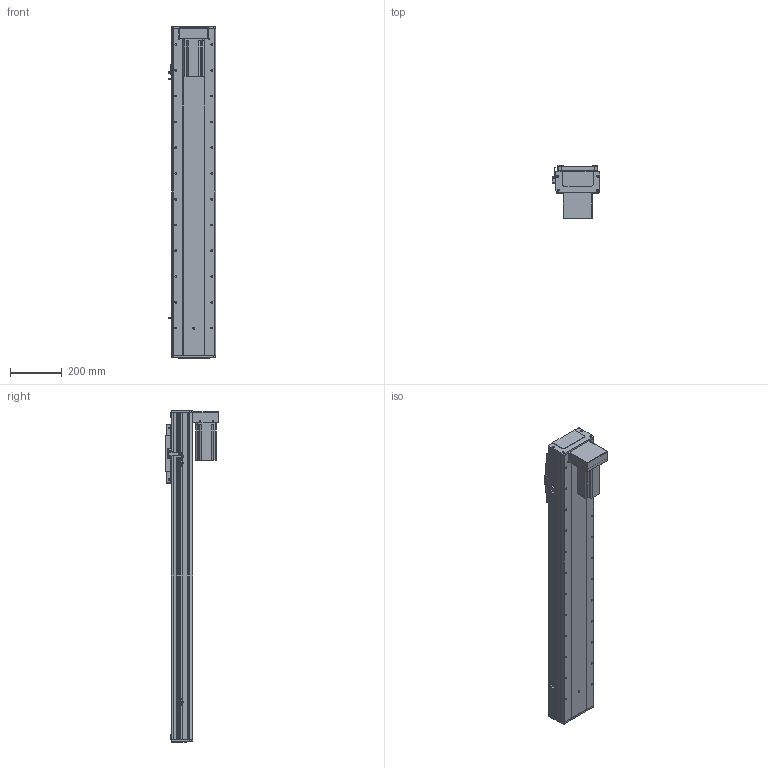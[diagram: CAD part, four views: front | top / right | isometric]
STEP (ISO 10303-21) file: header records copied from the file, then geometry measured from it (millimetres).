
FILE_DESCRIPTION (( 'STEP AP203' ), '1' );
FILE_NAME ('RY170F-L2010-300-BK.SLDASM_950.step', '2021-03-02T08:56:11', ( '盈信电脑' ), ( '东莞市道滘镇水果街19号' ), 'SwSTEP 2.0', 'SolidWorks 2012', '' );
FILE_SCHEMA (( 'CONFIG_CONTROL_DESIGN' ));
Length unit declared in the file: millimetre
Products named in the file (20): RY170F-L2010-300-BK.SLDASM_950; RY170F狟殏萇儂欶; 怢湛750W萇儂ㄗ80遺ㄘ; RY170F-狟殏萇儂假蚾啣(750W); RY170狟殏詩湍假蚾輸; 滅袉蝶18-24; RY170F-詩湍揤踡輸; RY170F-揤踡謫假蚾粣; 侐源滅袉蝶; RY170F-綴裔啣; RY170F俋离覜茼え; 覜茼ん672; RY100F-詩湍揤踡謫; RY170F-佪裝臏賑輸20蹟譫; 滅袉蝶18-10; RY170F-丝杆铝滑块连接板; RY170F-300眻蟀祥凄詩湍-MK_950; RY170F-300眻蟀倰第奻裔啣-BK_950; RY170F-300眻蟀倰第菁釱-BK_950; RY170F-滅鳥奻裔
Assembly tree (25 placements, depth 2):
  RY170F-L2010-300-BK.SLDASM_950
    RY170F-300眻蟀祥凄詩湍-MK_950
    RY170F-300眻蟀倰第奻裔啣-BK_950  x2
    RY170F-滅鳥奻裔
    RY170F-300眻蟀倰第菁釱-BK_950
    RY170F-佪裝臏賑輸20蹟譫
    RY170F-丝杆铝滑块连接板
    滅袉蝶18-10
    RY100F-詩湍揤踡謫
    RY170F-綴裔啣  x2
    覜茼ん672  x3
    RY170F俋离覜茼え
    RY170F-揤踡謫假蚾粣
    RY170F-詩湍揤踡輸  x2
    滅袉蝶18-24
    侐源滅袉蝶  x2
    RY170F-狟殏萇儂假蚾啣(750W)
    怢湛750W萇儂ㄗ80遺ㄘ
    RY170F狟殏萇儂欶
    RY170狟殏詩湍假蚾輸
Bounding box: 183.7 x 208 x 1288 mm (x, y, z)
Volume: 7278226.3 mm3; surface area: 2408016.7 mm2
Topology: 25 solids, 25 shells, 1890 faces, 5221 edges, 3304 vertices
Faces by surface type: cylinder 904, plane 762, cone 220, bspline 4
Entity records: 52824 total; most frequent: CARTESIAN_POINT 10492, DIRECTION 8610, ORIENTED_EDGE 8158, EDGE_CURVE 4079, AXIS2_PLACEMENT_3D 3118, VERTEX_POINT 2660, VECTOR 2374, LINE 2374
